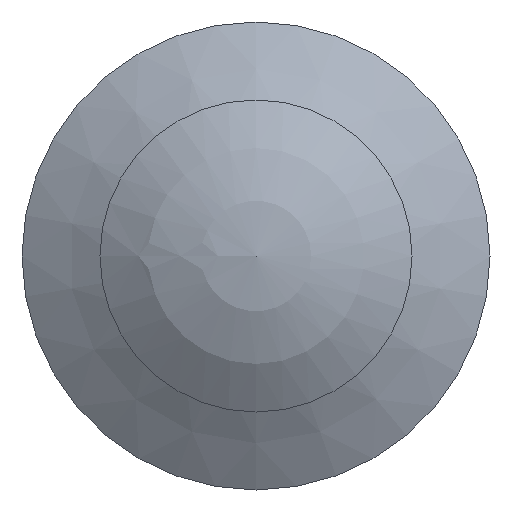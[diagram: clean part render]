
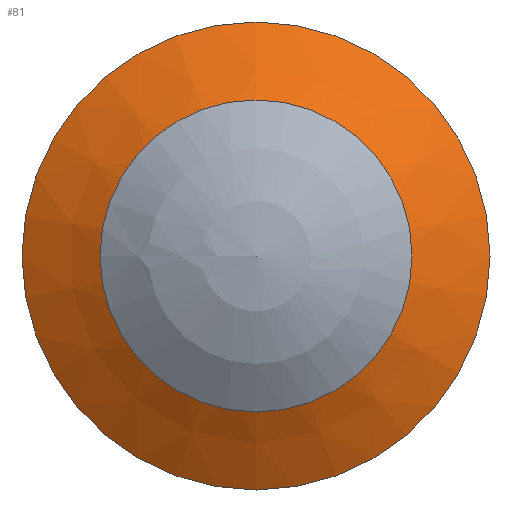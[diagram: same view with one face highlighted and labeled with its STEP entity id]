
A CAD part, front view. The second image highlights one B-rep face of the part: STEP entity #81.
In plain terms, the highlighted conical face has half-angle 60 degrees and reference radius 6 mm.
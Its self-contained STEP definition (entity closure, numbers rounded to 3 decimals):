
#81 = ADVANCED_FACE( '', ( #106, #107 ), #108, .T. );
#106 = FACE_BOUND( '', #144, .T. );
#107 = FACE_OUTER_BOUND( '', #145, .T. );
#108 = CONICAL_SURFACE( '', #146, 6., 1.047 );
#144 = EDGE_LOOP( '', ( #210 ) );
#145 = EDGE_LOOP( '', ( #211 ) );
#146 = AXIS2_PLACEMENT_3D( '', #212, #213, #214 );
#210 = ORIENTED_EDGE( '', *, *, #281, .F. );
#211 = ORIENTED_EDGE( '', *, *, #263, .T. );
#212 = CARTESIAN_POINT( '', ( 0., 10., 0. ) );
#213 = DIRECTION( '', ( 0., 1., 0. ) );
#214 = DIRECTION( '', ( 0., 0., 1. ) );
#263 = EDGE_CURVE( '', #289, #289, #290, .T. );
#281 = EDGE_CURVE( '', #322, #322, #323, .T. );
#289 = VERTEX_POINT( '', #333 );
#290 = CIRCLE( '', #334, 6. );
#322 = VERTEX_POINT( '', #381 );
#323 = CIRCLE( '', #382, 3.6 );
#333 = CARTESIAN_POINT( '', ( 0., 10., -6. ) );
#334 = AXIS2_PLACEMENT_3D( '', #395, #396, #397 );
#381 = CARTESIAN_POINT( '', ( 0., 8.614, -3.6 ) );
#382 = AXIS2_PLACEMENT_3D( '', #419, #420, #421 );
#395 = CARTESIAN_POINT( '', ( 0., 10., 0. ) );
#396 = DIRECTION( '', ( 0., -1., 0. ) );
#397 = DIRECTION( '', ( 0., 0., -1. ) );
#419 = CARTESIAN_POINT( '', ( 0., 8.614, 0. ) );
#420 = DIRECTION( '', ( 0., -1., 0. ) );
#421 = DIRECTION( '', ( 0., 0., -1. ) );
